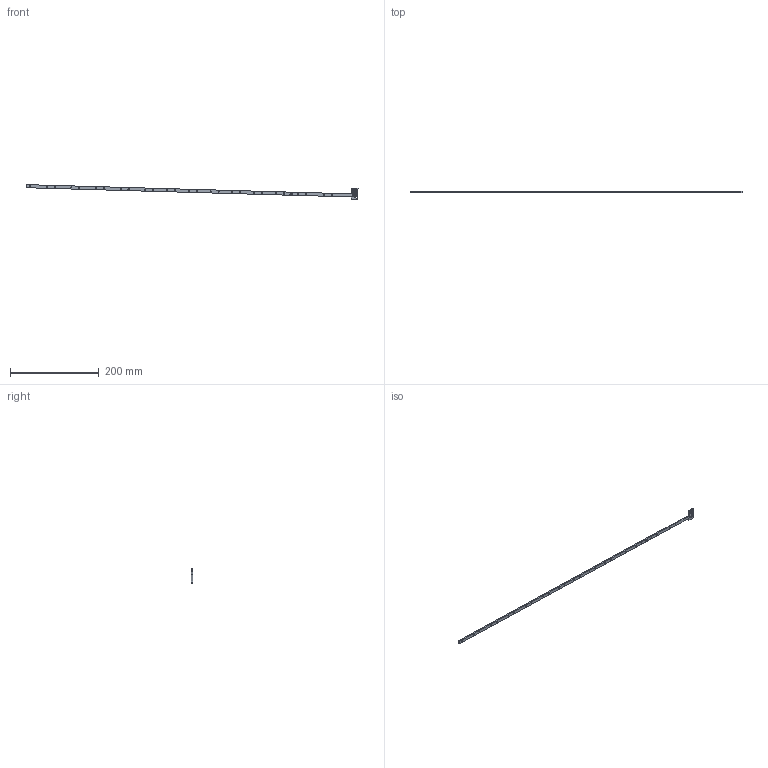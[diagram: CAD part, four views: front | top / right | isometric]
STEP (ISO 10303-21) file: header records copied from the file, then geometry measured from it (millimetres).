
FILE_DESCRIPTION((''),'2;1');
FILE_NAME('0000186957','2024-02-23T16:51:51',('Wyndorps'),(''),'CREO PARAMETRIC BY PTC INC, 2022484','CREO PARAMETRIC BY PTC INC, 2022484','');
FILE_SCHEMA(('CONFIG_CONTROL_DESIGN'));
Length unit declared in the file: millimetre
Products named in the file (1): 0000186957
Bounding box: 747.48 x 3 x 33.17 mm (x, y, z)
Volume: 15797.1 mm3; surface area: 16253.7 mm2
Topology: 1 solids, 1 shells, 138 faces, 408 edges, 272 vertices
Faces by surface type: plane 60, cylinder 54, extrusion 24
Entity records: 4943 total; most frequent: CARTESIAN_POINT 1051, ORIENTED_EDGE 816, DIRECTION 720, EDGE_CURVE 408, VECTOR 276, VERTEX_POINT 272, LINE 252, AXIS2_PLACEMENT_3D 222
